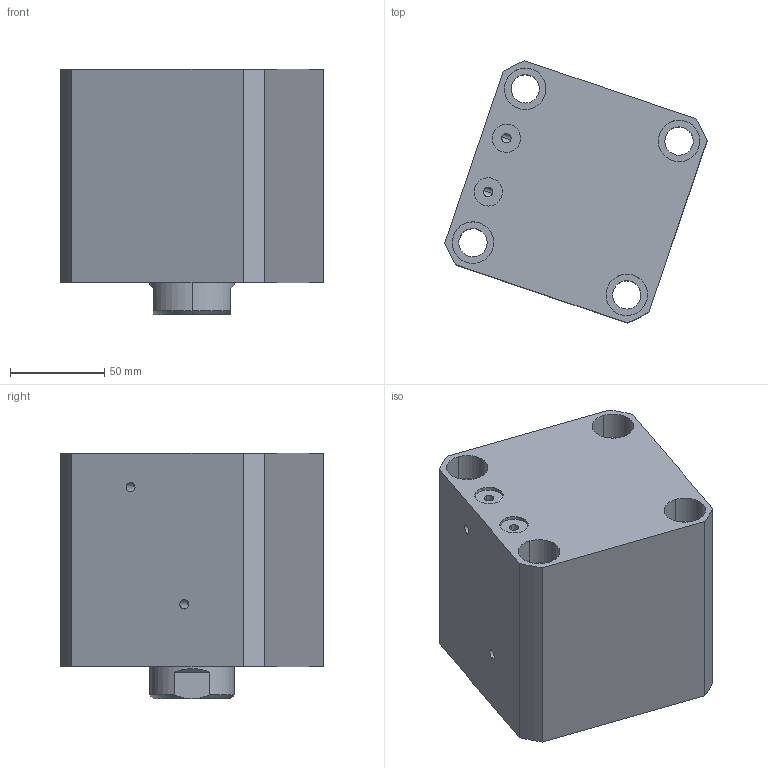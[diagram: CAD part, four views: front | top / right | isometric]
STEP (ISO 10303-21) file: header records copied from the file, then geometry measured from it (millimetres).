
FILE_DESCRIPTION (( 'STEP AP214' ), '1' );
FILE_NAME ('chtb-sdmb80x35_asm.STEP', '2018-05-25T09:29:24', ( 'Windows' ), ( 'Microsoft' ), 'SwSTEP 2.0', 'SolidWorks 2015', '' );
FILE_SCHEMA (( 'AUTOMOTIVE_DESIGN' ));
Length unit declared in the file: millimetre
Products named in the file (4): CHTB-SDMB80X35NBT; CHTB-SD80X35NHSG; CHTB-SD80QG; chtb-sdmb80x35_asm
Assembly tree (3 placements, depth 2):
  chtb-sdmb80x35_asm
    CHTB-SD80QG
    CHTB-SD80X35NHSG
    CHTB-SDMB80X35NBT
Bounding box: 138.8 x 138.8 x 130 mm (x, y, z)
Volume: 1213119.9 mm3; surface area: 185917.6 mm2
Topology: 3 solids, 3 shells, 190 faces, 516 edges, 345 vertices
Faces by surface type: cylinder 107, plane 35, torus 18, cone 16, bspline 14
Entity records: 15174 total; most frequent: CARTESIAN_POINT 10467, ORIENTED_EDGE 1020, DIRECTION 879, EDGE_CURVE 510, AXIS2_PLACEMENT_3D 368, VERTEX_POINT 345, EDGE_LOOP 227, ADVANCED_FACE 190
